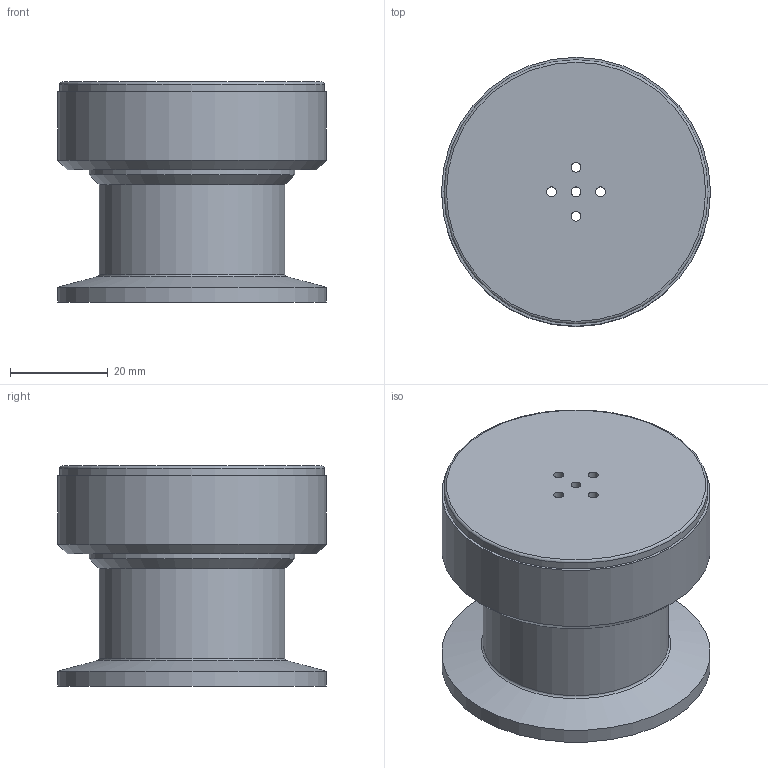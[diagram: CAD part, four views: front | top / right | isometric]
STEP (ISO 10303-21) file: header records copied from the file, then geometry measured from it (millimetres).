
FILE_DESCRIPTION( ( 'Unknown' ), '1' );
FILE_NAME( 'X:/Daten ( aktueller Bestand )/Projekte und Zeichnungen/Solid Edge/STP-Dateien/Sonderbauteile KF/1753-5.stp', 'Unknown', ( 'Unknown' ), ( 'Unknown' ), 'PSStep 14.0', 'Unknown', ' ' );
FILE_SCHEMA( ( 'AUTOMOTIVE_DESIGN { 1 0 10303 214 1 1 1 1 }' ) );
Length unit declared in the file: millimetre
Products named in the file (3): Assem1; 1743-1.1; 1743-1.25
Assembly tree (2 placements, depth 2):
  Assem1
    1743-1.1
    1743-1.25
Bounding box: 55 x 55 x 45 mm (x, y, z)
Volume: 35436.5 mm3; surface area: 22969.4 mm2
Topology: 2 solids, 2 shells, 32 faces, 66 edges, 42 vertices
Faces by surface type: cylinder 15, plane 8, cone 7, torus 2
Full cylindrical faces by diameter (mm): 2 x5, 25.5 x1, 36.1 x1, 38 x1, 41.2 x1, 42 x2, 45 x1, 54 x1, 55 x2
Entity records: 1018 total; most frequent: DIRECTION 142, CARTESIAN_POINT 107, EDGE_LOOP 72, ORIENTED_EDGE 72, AXIS2_PLACEMENT_3D 71, FACE_OUTER_BOUND 49, EDGE_CURVE 36, VERTEX_POINT 36
